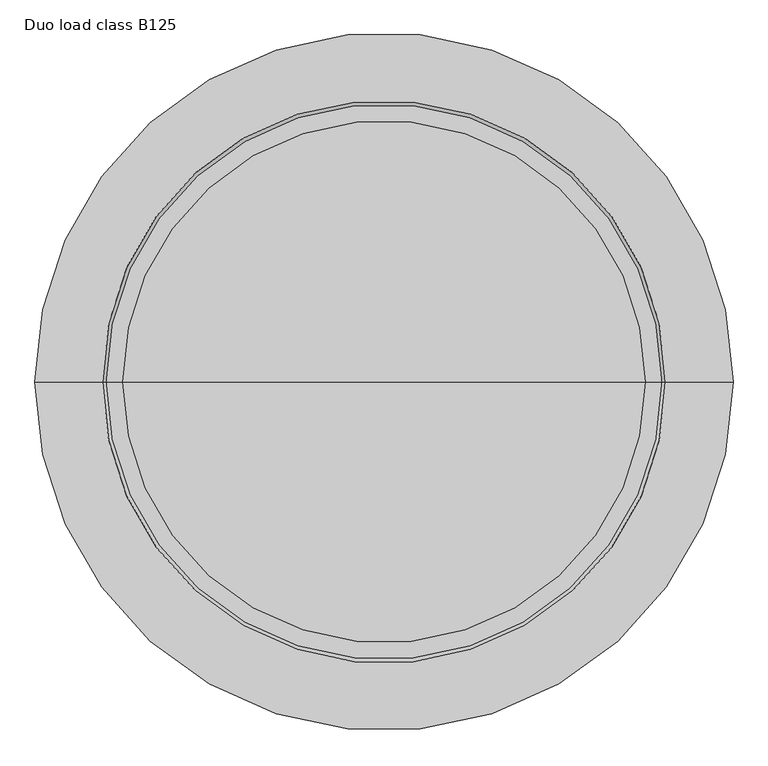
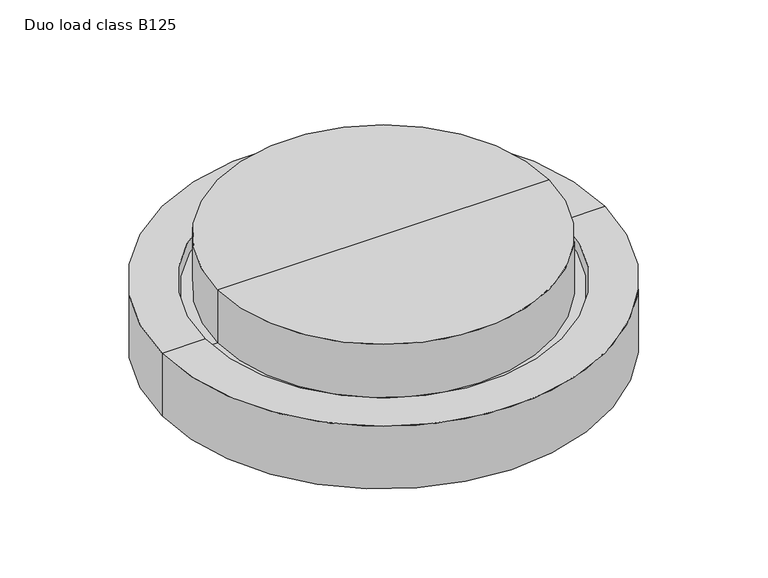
"""IFC4 building model written with IfcOpenShell, lengths in millimetres: unitary equipment geometry, ME_PE_UN_Powerlift-P_ACO : Duo load class B125."""

from ifc_helpers import new_model, si_unit, frame, origin, origin_with_axes, place, context, project, spatial, polyline, circle_curve, source, transform, mapped, element, save
from ifc_brep_helpers import plane_surface, cylinder_surface, revolved_surface, advanced_brep


def duo_load_class_b125_98e60047(model_context):
    return source(origin(), model_context, "Body", "AdvancedBrep", [
        advanced_brep(
        [(0.0, 0.0, -127.872), (398.6285742, 0.0, -127.872), (-398.6285742, 0.0, -127.872), (-501.0260742, 0.0, -257.742), (501.0260742, 0.0, -257.742), (0.0, 0.0, -257.742), (-501.0260742, 0.0, -107.892), (501.0260742, 0.0, -107.892), (-403.982199, 0.0, -107.892), (403.982199, 0.0, -107.892)],
        [
            (0, 1),
            (1, 2, circle_curve(frame((0.0, 0.0, -127.872), z_axis=(0.0, 0.0, 1.0), x_axis=(1.0, 0.0, 0.0)), 398.6285742)),
            (2, 0),
            (2, 1, circle_curve(frame((0.0, 0.0, -127.872), z_axis=(0.0, 0.0, 1.0), x_axis=(1.0, 0.0, 0.0)), 398.6285742)),
            (3, 4, circle_curve(frame((0.0, 0.0, -257.742), z_axis=(0.0, 0.0, -1.0), x_axis=(1.0, 0.0, 0.0)), 501.0260742)),
            (4, 5),
            (5, 3),
            (4, 3, circle_curve(frame((0.0, 0.0, -257.742), z_axis=(0.0, 0.0, -1.0), x_axis=(1.0, 0.0, 0.0)), 501.0260742)),
            (6, 7, circle_curve(frame((0.0, 0.0, -107.892), z_axis=(0.0, 0.0, -1.0), x_axis=(1.0, 0.0, 0.0)), 501.0260742)),
            (7, 4),
            (3, 6),
            (7, 6, circle_curve(frame((0.0, 0.0, -107.892), z_axis=(0.0, 0.0, -1.0), x_axis=(1.0, 0.0, 0.0)), 501.0260742)),
            (8, 9, circle_curve(frame((0.0, 0.0, -107.892), z_axis=(0.0, 0.0, -1.0), x_axis=(1.0, 0.0, 0.0)), 403.982199)),
            (9, 7),
            (6, 8),
            (9, 8, circle_curve(frame((0.0, 0.0, -107.892), z_axis=(0.0, 0.0, -1.0), x_axis=(1.0, 0.0, 0.0)), 403.982199)),
            (1, 9),
            (8, 2),
        ],
        [
            plane_surface(frame((0.0, 0.0, -127.872), z_axis=(0.0, 0.0, 1.0), x_axis=(1.0, 0.0, 0.0))),
            plane_surface(frame((0.0, 0.0, -257.742), z_axis=(0.0, 0.0, -1.0), x_axis=(1.0, 0.0, 0.0))),
            cylinder_surface(frame((0.0, 0.0, 33.5611492), z_axis=(0.0, 0.0, 1.0), x_axis=(1.0, 0.0, 0.0)), 501.0260742),
            plane_surface(frame((0.0, 0.0, -107.892), z_axis=(0.0, 0.0, 1.0), x_axis=(1.0, 0.0, 0.0))),
            revolved_surface(polyline([(403.982199, 0.0, -107.892), (398.6285742, 0.0, -127.872)]), (0.0, 0.0, 33.5611492), (0.0, 0.0, 1.0)),
        ],
        [
            (0, [[1, 2, 3]]),
            (0, [[-3, 4, -1]]),
            (1, [[5, 6, 7]]),
            (1, [[8, -7, -6]]),
            (2, [[9, 10, -5, 11]]),
            (2, [[12, -11, -8, -10]]),
            (3, [[13, 14, -9, 15]]),
            (3, [[16, -15, -12, -14]]),
            (4, [[-2, 17, -13, 18]]),
            (4, [[-4, -18, -16, -17]]),
        ],
    ),
        advanced_brep(
        [(0.0, 0.0, 0.0), (374.7842156, 0.0, 0.0), (-374.7842156, 0.0, 0.0), (-374.7842156, 0.0, -127.872), (374.7842156, 0.0, -127.872), (0.0, 0.0, -127.872)],
        [
            (0, 1),
            (1, 2, circle_curve(origin_with_axes(), 374.7842156)),
            (2, 0),
            (2, 1, circle_curve(origin_with_axes(), 374.7842156)),
            (3, 4, circle_curve(frame((0.0, 0.0, -127.872), z_axis=(0.0, 0.0, -1.0), x_axis=(1.0, 0.0, 0.0)), 374.7842156)),
            (4, 5),
            (5, 3),
            (4, 3, circle_curve(frame((0.0, 0.0, -127.872), z_axis=(0.0, 0.0, -1.0), x_axis=(1.0, 0.0, 0.0)), 374.7842156)),
            (1, 4),
            (3, 2),
        ],
        [
            plane_surface(origin_with_axes()),
            plane_surface(frame((0.0, 0.0, -127.872), z_axis=(0.0, 0.0, -1.0), x_axis=(1.0, 0.0, 0.0))),
            cylinder_surface(frame((0.0, 0.0, 60.0), z_axis=(0.0, 0.0, 1.0), x_axis=(1.0, 0.0, 0.0)), 374.7842156),
        ],
        [
            (0, [[1, 2, 3]]),
            (0, [[-3, 4, -1]]),
            (1, [[5, 6, 7]]),
            (1, [[8, -7, -6]]),
            (2, [[-2, 9, -5, 10]]),
            (2, [[-4, -10, -8, -9]]),
        ],
    ),
    ])


if __name__ == "__main__":
    model = new_model("IFC4")
    model_context = context("Model", 3, world=origin())
    ifc_project = project(units=[si_unit("LENGTHUNIT", "METRE", prefix="MILLI")], contexts=[model_context])
    site = spatial("IfcSite", under=ifc_project)
    building = spatial("IfcBuilding", under=site)
    placement = place(None, origin())
    duo_load_class_b125_shape = duo_load_class_b125_98e60047(model_context)
    element("IfcUnitaryEquipment", 1, ObjectType="ME_PE_UN_Powerlift-P_ACO : Duo load class B125", at=placement, inside=building, context=model_context, shape_type="MappedRepresentation", body=[
        mapped(duo_load_class_b125_shape, transform((0.0, 0.0, 0.0), x_axis=(1.0, 0.0, 0.0), y_axis=(0.0, 1.0, 0.0), z_axis=(0.0, 0.0, 1.0))),
    ])
    save(model, "model.ifc")
